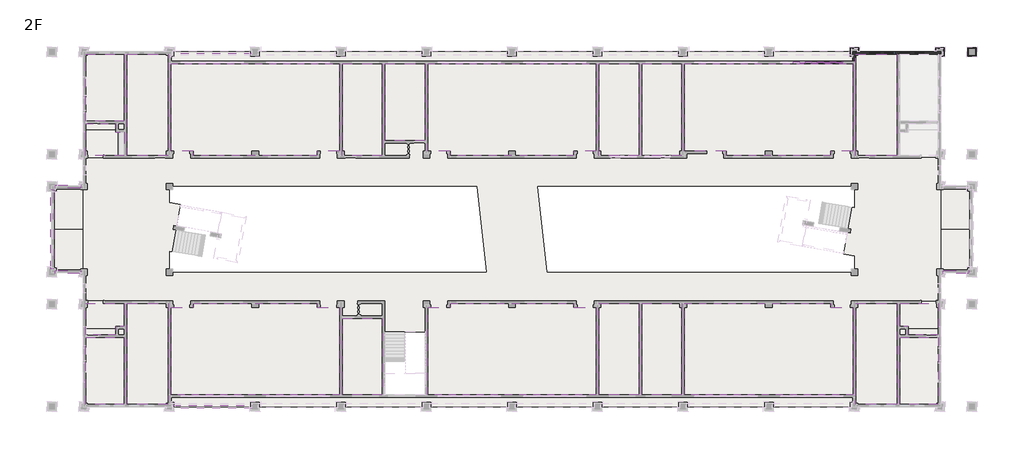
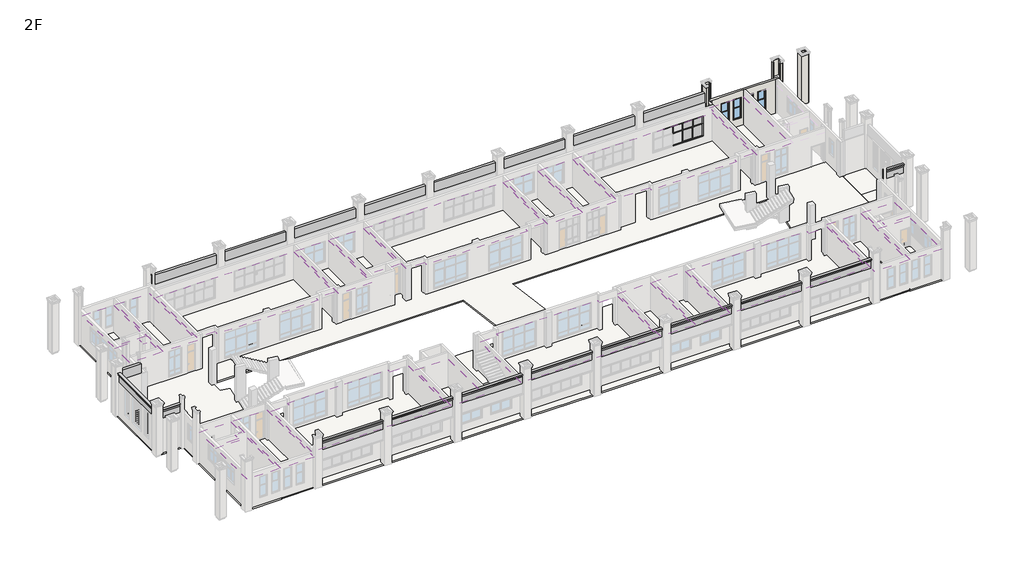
# One storey, part 9 of 16: 23 coverings, 16 members, 14 walls, 8 slabs, 6 proxies, 4 windows, 3 plates.
"""IFC4 building model written with IfcOpenShell, lengths in millimetres."""

from ifc_helpers import new_model, si_unit, frame, origin, place, context, project, spatial, polyline, outline, extrude, faceted_brep, transform, mapped, element, save
from components import member_7564be38, member_1f4d75dd, member_163d5e45, member_0b7842ad, member_2b011958, member_ffafc35e, member_9c26cac3, member_a374fdad, member_6c42befd, plate_75e73fbb, plate_1cc4df2b, plate_4fa5932a, lc1_lc1_4d7fae2d

model = new_model("IFC4")

# Units and contexts
model_context = context("Model", 3, world=origin())
ifc_project = project(units=[si_unit("LENGTHUNIT", "METRE", prefix="MILLI")], contexts=[model_context])

# Site, building, storey
site = spatial("IfcSite", under=ifc_project)
building = spatial("IfcBuilding", under=site)
storey = spatial("IfcBuildingStorey", under=building, Name="2F", Elevation=4200.0)

# Proxies
placement = place(None, origin())
element("IfcBuildingElementProxy", 1, Name="空调板围档", ObjectType="空调板围档", at=placement, inside=storey, context=model_context, shape_type="SweptSolid", body=[
    extrude(outline(polyline([(12599.6954636, 9220.0), (12519.6954636, 9220.0), (12519.6954636, 9420.0), (12469.6954636, 9420.0), (12469.6954636, 9520.0), (12749.6954636, 9520.0), (12749.6954636, 8380.4499984), (12599.6954636, 8380.0), (12599.6954636, 9220.0)])), frame((83300.0, 0.0, 0.0), z_axis=(1.0, 0.0, 0.0), x_axis=(0.0, 1.0, 0.0)), (0.0, 0.0, 1.0), 2400.0),
])
element("IfcBuildingElementProxy", 2, Name="空调板围档", ObjectType="空调板围档", at=placement, inside=storey, context=model_context, shape_type="SweptSolid", body=[
    extrude(outline(polyline([(20679.7242304, 9220.0), (20599.7242304, 9220.0), (20599.7242304, 8380.0), (20449.7242304, 8380.4499984), (20449.7242304, 9520.0), (20729.7242304, 9520.0), (20729.7242304, 9420.0), (20679.7242304, 9420.0), (20679.7242304, 9220.0)])), frame((300.0, 0.0, 0.0), z_axis=(1.0, 0.0, 0.0), x_axis=(0.0, 1.0, 0.0)), (0.0, 0.0, 1.0), 2400.0),
])
element("IfcBuildingElementProxy", 3, Name="空调板围档", ObjectType="空调板围档", at=placement, inside=storey, context=model_context, shape_type="Brep", body=[
    faceted_brep([(-1.2e-06, 20300.0, 9220.0), (-80.0000012, 20300.0, 9220.0), (-80.0000012, 20300.0, 9420.0), (-130.0000012, 20300.0, 9420.0), (-130.0000012, 20300.0, 9520.0), (149.9999988, 20300.0, 9520.0), (149.9999988, 20300.0, 8380.8991695), (-1.2e-06, 20300.0, 8380.8991695), (-80.0000012, 12900.0, 9220.0), (-1.2e-06, 12900.0, 9220.0), (-1.2e-06, 12900.0, 8380.9009104), (149.9999988, 12900.0, 8380.9009104), (149.9999988, 12900.0, 9520.0), (-130.0000012, 12900.0, 9520.0), (-130.0000012, 12900.0, 9420.0), (-80.0000012, 12900.0, 9420.0), (149.9999988, 16599.709847, 8392.0), (-1.2e-06, 16599.709847, 8392.0)], [[[0, 1, 2, 3, 4, 5, 6, 7]], [[8, 9, 10, 11, 12, 13, 14, 15]], [[1, 0, 9, 8]], [[2, 1, 8, 15]], [[3, 2, 15, 14]], [[4, 3, 14, 13]], [[5, 4, 13, 12]], [[5, 12, 11, 16, 6]], [[9, 0, 7, 17, 10]], [[17, 16, 11, 10]], [[16, 17, 7, 6]]]),
])
element("IfcBuildingElementProxy", 4, Name="空调板围档", ObjectType="空调板围档", at=placement, inside=storey, context=model_context, shape_type="SweptSolid", body=[
    extrude(outline(polyline([(12599.6954636, 9220.0), (12519.6954636, 9220.0), (12519.6954636, 9420.0), (12469.6954636, 9420.0), (12469.6954636, 9520.0), (12749.6954636, 9520.0), (12749.6954636, 8380.4499984), (12599.6954636, 8380.0), (12599.6954636, 9220.0)])), frame((300.0, 0.0, 0.0), z_axis=(1.0, 0.0, 0.0), x_axis=(0.0, 1.0, 0.0)), (0.0, 0.0, 1.0), 2400.0),
])
element("IfcBuildingElementProxy", 5, Name="空调板围档", ObjectType="空调板围档", at=placement, inside=storey, context=model_context, shape_type="SweptSolid", body=[
    extrude(outline(polyline([(33280.0, 9220.0), (33200.0, 9220.0), (33200.0, 8380.0), (33050.0, 8380.0), (33050.0, 9520.0), (33330.0, 9520.0), (33330.0, 9420.0), (33280.0, 9420.0), (33280.0, 9220.0)])), frame((11300.0, 0.0, 0.0), z_axis=(1.0, 0.0, 0.0), x_axis=(0.0, 1.0, 0.0)), (0.0, 0.0, 1.0), 7400.0),
    extrude(outline(polyline([(33280.0, 9220.0), (33200.0, 9220.0), (33200.0, 8380.0), (33050.0, 8380.0), (33050.0, 9520.0), (33330.0, 9520.0), (33330.0, 9420.0), (33280.0, 9420.0), (33280.0, 9220.0)])), frame((19300.0, 0.0, 0.0), z_axis=(1.0, 0.0, 0.0), x_axis=(0.0, 1.0, 0.0)), (0.0, 0.0, 1.0), 7400.0),
    extrude(outline(polyline([(33280.0, 9220.0), (33200.0, 9220.0), (33200.0, 8380.0), (33050.0, 8380.0), (33050.0, 9520.0), (33330.0, 9520.0), (33330.0, 9420.0), (33280.0, 9420.0), (33280.0, 9220.0)])), frame((27300.0, 0.0, 0.0), z_axis=(1.0, 0.0, 0.0), x_axis=(0.0, 1.0, 0.0)), (0.0, 0.0, 1.0), 7400.0),
    extrude(outline(polyline([(33280.0, 9220.0), (33200.0, 9220.0), (33200.0, 8380.0), (33050.0, 8380.0), (33050.0, 9520.0), (33330.0, 9520.0), (33330.0, 9420.0), (33280.0, 9420.0), (33280.0, 9220.0)])), frame((35300.0, 0.0, 0.0), z_axis=(1.0, 0.0, 0.0), x_axis=(0.0, 1.0, 0.0)), (0.0, 0.0, 1.0), 7400.0),
    extrude(outline(polyline([(33280.0, 9220.0), (33200.0, 9220.0), (33200.0, 8380.0), (33050.0, 8380.0), (33050.0, 9520.0), (33330.0, 9520.0), (33330.0, 9420.0), (33280.0, 9420.0), (33280.0, 9220.0)])), frame((43300.0, 0.0, 0.0), z_axis=(1.0, 0.0, 0.0), x_axis=(0.0, 1.0, 0.0)), (0.0, 0.0, 1.0), 7400.0),
    extrude(outline(polyline([(33280.0, 9220.0), (33200.0, 9220.0), (33200.0, 8380.0), (33050.0, 8380.0), (33050.0, 9520.0), (33330.0, 9520.0), (33330.0, 9420.0), (33280.0, 9420.0), (33280.0, 9220.0)])), frame((51300.0, 0.0, 0.0), z_axis=(1.0, 0.0, 0.0), x_axis=(0.0, 1.0, 0.0)), (0.0, 0.0, 1.0), 7400.0),
    extrude(outline(polyline([(33280.0, 9220.0), (33200.0, 9220.0), (33200.0, 8380.0), (33050.0, 8380.0), (33050.0, 9520.0), (33330.0, 9520.0), (33330.0, 9420.0), (33280.0, 9420.0), (33280.0, 9220.0)])), frame((59300.0, 0.0, 0.0), z_axis=(1.0, 0.0, 0.0), x_axis=(0.0, 1.0, 0.0)), (0.0, 0.0, 1.0), 7400.0),
    extrude(outline(polyline([(33280.0, 9220.0), (33200.0, 9220.0), (33200.0, 8380.0), (33050.0, 8380.0), (33050.0, 9520.0), (33330.0, 9520.0), (33330.0, 9420.0), (33280.0, 9420.0), (33280.0, 9220.0)])), frame((67300.0, 0.0, 0.0), z_axis=(1.0, 0.0, 0.0), x_axis=(0.0, 1.0, 0.0)), (0.0, 0.0, 1.0), 7400.0),
])
element("IfcBuildingElementProxy", 6, Name="空调板围档", ObjectType="空调板围档", at=placement, inside=storey, context=model_context, shape_type="SweptSolid", body=[
    extrude(outline(polyline([(0.0, 9220.0), (-80.0, 9220.0), (-80.0, 9420.0), (-130.0, 9420.0), (-130.0, 9520.0), (150.0, 9520.0), (150.0, 8380.0), (0.0, 8380.0), (0.0, 9220.0)])), frame((11300.0, 0.0, 0.0), z_axis=(1.0, 0.0, 0.0), x_axis=(0.0, 1.0, 0.0)), (0.0, 0.0, 1.0), 7400.0),
    extrude(outline(polyline([(0.0, 9220.0), (-80.0, 9220.0), (-80.0, 9420.0), (-130.0, 9420.0), (-130.0, 9520.0), (150.0, 9520.0), (150.0, 8380.0), (0.0, 8380.0), (0.0, 9220.0)])), frame((19300.0, 0.0, 0.0), z_axis=(1.0, 0.0, 0.0), x_axis=(0.0, 1.0, 0.0)), (0.0, 0.0, 1.0), 7400.0),
    extrude(outline(polyline([(0.0, 9220.0), (-80.0, 9220.0), (-80.0, 9420.0), (-130.0, 9420.0), (-130.0, 9520.0), (150.0, 9520.0), (150.0, 8380.0), (0.0, 8380.0), (0.0, 9220.0)])), frame((27300.0, 0.0, 0.0), z_axis=(1.0, 0.0, 0.0), x_axis=(0.0, 1.0, 0.0)), (0.0, 0.0, 1.0), 7400.0),
    extrude(outline(polyline([(0.0, 9220.0), (-80.0, 9220.0), (-80.0, 9420.0), (-130.0, 9420.0), (-130.0, 9520.0), (150.0, 9520.0), (150.0, 8380.0), (0.0, 8380.0), (0.0, 9220.0)])), frame((35300.0, 0.0, 0.0), z_axis=(1.0, 0.0, 0.0), x_axis=(0.0, 1.0, 0.0)), (0.0, 0.0, 1.0), 7400.0),
    extrude(outline(polyline([(0.0, 9220.0), (-80.0, 9220.0), (-80.0, 9420.0), (-130.0, 9420.0), (-130.0, 9520.0), (150.0, 9520.0), (150.0, 8380.0), (0.0, 8380.0), (0.0, 9220.0)])), frame((43300.0, 0.0, 0.0), z_axis=(1.0, 0.0, 0.0), x_axis=(0.0, 1.0, 0.0)), (0.0, 0.0, 1.0), 7400.0),
    extrude(outline(polyline([(0.0, 9220.0), (-80.0, 9220.0), (-80.0, 9420.0), (-130.0, 9420.0), (-130.0, 9520.0), (150.0, 9520.0), (150.0, 8380.0), (0.0, 8380.0), (0.0, 9220.0)])), frame((51300.0, 0.0, 0.0), z_axis=(1.0, 0.0, 0.0), x_axis=(0.0, 1.0, 0.0)), (0.0, 0.0, 1.0), 7400.0),
    extrude(outline(polyline([(0.0, 9220.0), (-80.0, 9220.0), (-80.0, 9420.0), (-130.0, 9420.0), (-130.0, 9520.0), (150.0, 9520.0), (150.0, 8380.0), (0.0, 8380.0), (0.0, 9220.0)])), frame((59300.0, 0.0, 0.0), z_axis=(1.0, 0.0, 0.0), x_axis=(0.0, 1.0, 0.0)), (0.0, 0.0, 1.0), 7400.0),
    extrude(outline(polyline([(0.0, 9220.0), (-80.0, 9220.0), (-80.0, 9420.0), (-130.0, 9420.0), (-130.0, 9520.0), (150.0, 9520.0), (150.0, 8380.0), (0.0, 8380.0), (0.0, 9220.0)])), frame((67300.0, 0.0, 0.0), z_axis=(1.0, 0.0, 0.0), x_axis=(0.0, 1.0, 0.0)), (0.0, 0.0, 1.0), 7400.0),
])

# Coverings
element("IfcCovering", 7, ObjectType="教学楼 - 悬吊式顶棚 - 36mm", at=placement, inside=storey, context=model_context, shape_type="SweptSolid", body=[
    extrude(outline(polyline([(3167.0000002, 26716.2230983), (3167.0000002, 32982.6954639), (6783.0000003, 32982.6954639), (6783.0000003, 26716.2230983), (3167.0000002, 26716.2230983)])), frame((0.0, 0.0, 7600.0), z_axis=(0.0, 0.0, 1.0), x_axis=(1.0, 0.0, 0.0)), (0.0, 0.0, 1.0), 52.0),
])
element("IfcCovering", 8, ObjectType="教学楼 - 悬吊式顶棚 - 36mm", at=placement, inside=storey, context=model_context, shape_type="SweptSolid", body=[
    extrude(outline(polyline([(6783.0000003, 23516.723093), (3167.0000002, 23516.723093), (3167.0000002, 26482.2230983), (5983.0000019, 26482.2230983), (5983.0000019, 25682.2231012), (6783.0000003, 25682.2231012), (6783.0000003, 23516.723093)])), frame((0.0, 0.0, 7600.0), z_axis=(0.0, 0.0, 1.0), x_axis=(1.0, 0.0, 0.0)), (0.0, 0.0, 1.0), 52.0),
])
element("IfcCovering", 9, ObjectType="教学楼 - 悬吊式顶棚 - 36mm", at=placement, inside=storey, context=model_context, shape_type="SweptSolid", body=[
    extrude(outline(polyline([(7017.0000003, 23516.723093), (7017.0000003, 32982.6954639), (10883.0, 32982.6954639), (10883.0, 32200.0), (10883.0, 23516.723093), (7017.0000003, 23516.723093)])), frame((0.0, 0.0, 7600.0), z_axis=(0.0, 0.0, 1.0), x_axis=(1.0, 0.0, 0.0)), (0.0, 0.0, 1.0), 52.0),
])
element("IfcCovering", 10, ObjectType="教学楼 - 悬吊式顶棚 - 36mm", at=placement, inside=storey, context=model_context, shape_type="SweptSolid", body=[
    extrude(outline(polyline([(11117.0, 23916.7231012), (11117.0, 32075.0), (26883.0, 32075.0), (26883.0, 23916.7231007), (24782.9999964, 23916.7231007), (24782.9999964, 23516.6954641), (13216.9999996, 23516.6954641), (13216.9999996, 23916.7231012), (11117.0, 23916.7231012)])), frame((0.0, 0.0, 7600.0), z_axis=(0.0, 0.0, 1.0), x_axis=(1.0, 0.0, 0.0)), (0.0, 0.0, 1.0), 52.0),
])
element("IfcCovering", 11, ObjectType="教学楼 - 悬吊式顶棚 - 36mm", at=placement, inside=storey, context=model_context, shape_type="SweptSolid", body=[
    extrude(outline(polyline([(31117.0000029, 24916.6954638), (31117.0000029, 32075.0), (34883.0, 32075.0), (34883.0, 24916.6954638), (31117.0000029, 24916.6954638)])), frame((0.0, 0.0, 7600.0), z_axis=(0.0, 0.0, 1.0), x_axis=(1.0, 0.0, 0.0)), (0.0, 0.0, 1.0), 52.0),
])
element("IfcCovering", 12, ObjectType="教学楼 - 悬吊式顶棚 - 36mm", at=placement, inside=storey, context=model_context, shape_type="SweptSolid", body=[
    extrude(outline(polyline([(27117.0, 23516.6954638), (27117.0, 32075.0), (30883.0000029, 32075.0), (30883.0000029, 23516.6954638), (27117.0, 23516.6954638)])), frame((0.0, 0.0, 7600.0), z_axis=(0.0, 0.0, 1.0), x_axis=(1.0, 0.0, 0.0)), (0.0, 0.0, 1.0), 52.0),
])
element("IfcCovering", 13, ObjectType="教学楼 - 悬吊式顶棚 - 36mm", at=placement, inside=storey, context=model_context, shape_type="SweptSolid", body=[
    extrude(outline(polyline([(35117.0, 23916.7231012), (35117.0, 32075.0), (50883.0, 32075.0), (50883.0, 23916.7231007), (48783.0000007, 23916.7231007), (48783.0000007, 23516.695464), (37216.999999, 23516.695464), (37216.999999, 23916.7231012), (35117.0, 23916.7231012)])), frame((0.0, 0.0, 7600.0), z_axis=(0.0, 0.0, 1.0), x_axis=(1.0, 0.0, 0.0)), (0.0, 0.0, 1.0), 52.0),
])
element("IfcCovering", 14, ObjectType="教学楼 - 悬吊式顶棚 - 36mm", at=placement, inside=storey, context=model_context, shape_type="SweptSolid", body=[
    extrude(outline(polyline([(51117.0, 23516.6954639), (51117.0, 32075.0), (54883.0000001, 32075.0), (54883.0000001, 23516.6954639), (51117.0, 23516.6954639)])), frame((0.0, 0.0, 7600.0), z_axis=(0.0, 0.0, 1.0), x_axis=(1.0, 0.0, 0.0)), (0.0, 0.0, 1.0), 52.0),
])
element("IfcCovering", 15, ObjectType="教学楼 - 悬吊式顶棚 - 36mm", at=placement, inside=storey, context=model_context, shape_type="SweptSolid", body=[
    extrude(outline(polyline([(55117.0000001, 23516.6954639), (55117.0000001, 32075.0), (58883.0, 32075.0), (58883.0, 23516.6954639), (55117.0000001, 23516.6954639)])), frame((0.0, 0.0, 7600.0), z_axis=(0.0, 0.0, 1.0), x_axis=(1.0, 0.0, 0.0)), (0.0, 0.0, 1.0), 52.0),
])
element("IfcCovering", 16, ObjectType="教学楼 - 悬吊式顶棚 - 36mm", at=placement, inside=storey, context=model_context, shape_type="SweptSolid", body=[
    extrude(outline(polyline([(59117.0, 23916.7231012), (59117.0, 32075.0), (74883.0, 32075.0), (74883.0, 23916.7231011), (72783.0, 23916.7231011), (72783.0, 23516.6954638), (63017.0000002, 23516.6954638), (63017.0000002, 23916.7231012), (59117.0, 23916.7231012)])), frame((0.0, 0.0, 7600.0), z_axis=(0.0, 0.0, 1.0), x_axis=(1.0, 0.0, 0.0)), (0.0, 0.0, 1.0), 52.0),
])
element("IfcCovering", 17, ObjectType="教学楼 - 悬吊式顶棚 - 36mm", at=placement, inside=storey, context=model_context, shape_type="SweptSolid", body=[
    extrude(outline(polyline([(75117.0, 23516.2230996), (75117.0, 32200.0), (75117.0, 32982.6954642), (78983.0000003, 32982.6954642), (78983.0000003, 23516.2230996), (75117.0, 23516.2230996)])), frame((0.0, 0.0, 7600.0), z_axis=(0.0, 0.0, 1.0), x_axis=(1.0, 0.0, 0.0)), (0.0, 0.0, 1.0), 52.0),
])
element("IfcCovering", 18, ObjectType="教学楼 - 悬吊式顶棚 - 36mm", at=placement, inside=storey, context=model_context, shape_type="SweptSolid", body=[
    extrude(outline(polyline([(82832.9999995, 6483.7769004), (82832.9999995, 217.3045358), (79217.0000003, 217.3045358), (79217.0000003, 6483.7769004), (82832.9999995, 6483.7769004)])), frame((0.0, 0.0, 7600.0), z_axis=(0.0, 0.0, 1.0), x_axis=(1.0, 0.0, 0.0)), (0.0, 0.0, 1.0), 52.0),
])
element("IfcCovering", 19, ObjectType="教学楼 - 悬吊式顶棚 - 36mm", at=placement, inside=storey, context=model_context, shape_type="SweptSolid", body=[
    extrude(outline(polyline([(78983.0000003, 217.3045358), (75117.0, 217.3045358), (75117.0, 1000.0), (75117.0, 9683.7769004), (78983.0000003, 9683.7769004), (78983.0000003, 217.3045358)])), frame((0.0, 0.0, 7600.0), z_axis=(0.0, 0.0, 1.0), x_axis=(1.0, 0.0, 0.0)), (0.0, 0.0, 1.0), 52.0),
])
element("IfcCovering", 20, ObjectType="教学楼 - 悬吊式顶棚 - 36mm", at=placement, inside=storey, context=model_context, shape_type="SweptSolid", body=[
    extrude(outline(polyline([(82832.9999995, 9683.7769004), (82832.9999995, 6717.7769004), (80016.9999995, 6717.7769004), (80016.9999995, 7517.7769004), (79217.0000003, 7517.7769004), (79217.0000003, 9683.7769004), (82832.9999995, 9683.7769004)])), frame((0.0, 0.0, 7600.0), z_axis=(0.0, 0.0, 1.0), x_axis=(1.0, 0.0, 0.0)), (0.0, 0.0, 1.0), 52.0),
])
element("IfcCovering", 21, ObjectType="教学楼 - 悬吊式顶棚 - 36mm", at=placement, inside=storey, context=model_context, shape_type="SweptSolid", body=[
    extrude(outline(polyline([(74883.0, 9283.2768989), (74883.0, 1125.0), (59117.0, 1125.0), (59117.0, 9683.3045361), (72783.0, 9683.3045361), (72783.0, 9283.2768989), (74883.0, 9283.2768989)])), frame((0.0, 0.0, 7600.0), z_axis=(0.0, 0.0, 1.0), x_axis=(1.0, 0.0, 0.0)), (0.0, 0.0, 1.0), 52.0),
])
element("IfcCovering", 22, ObjectType="教学楼 - 悬吊式顶棚 - 36mm", at=placement, inside=storey, context=model_context, shape_type="SweptSolid", body=[
    extrude(outline(polyline([(58883.0, 9683.3045361), (58883.0, 1125.0), (55116.9999999, 1125.0), (55116.9999999, 9683.3045361), (58883.0, 9683.3045361)])), frame((0.0, 0.0, 7600.0), z_axis=(0.0, 0.0, 1.0), x_axis=(1.0, 0.0, 0.0)), (0.0, 0.0, 1.0), 52.0),
])
element("IfcCovering", 23, ObjectType="教学楼 - 悬吊式顶棚 - 36mm", at=placement, inside=storey, context=model_context, shape_type="SweptSolid", body=[
    extrude(outline(polyline([(54882.9999999, 9683.3045361), (54882.9999999, 1125.0), (51117.0, 1125.0), (51117.0, 9683.3045361), (54882.9999999, 9683.3045361)])), frame((0.0, 0.0, 7600.0), z_axis=(0.0, 0.0, 1.0), x_axis=(1.0, 0.0, 0.0)), (0.0, 0.0, 1.0), 52.0),
])
element("IfcCovering", 24, ObjectType="教学楼 - 悬吊式顶棚 - 36mm", at=placement, inside=storey, context=model_context, shape_type="SweptSolid", body=[
    extrude(outline(polyline([(50883.0, 9283.2768993), (50883.0, 1125.0), (35117.0, 1125.0), (35117.0, 9283.2768988), (37216.999999, 9283.2768988), (37216.999999, 9683.304536), (48783.0000007, 9683.304536), (48783.0000007, 9283.2768993), (50883.0, 9283.2768993)])), frame((0.0, 0.0, 7600.0), z_axis=(0.0, 0.0, 1.0), x_axis=(1.0, 0.0, 0.0)), (0.0, 0.0, 1.0), 52.0),
])
element("IfcCovering", 25, ObjectType="教学楼 - 悬吊式顶棚 - 36mm", at=placement, inside=storey, context=model_context, shape_type="SweptSolid", body=[
    extrude(outline(polyline([(30883.0000029, 8282.6678355), (30883.0000029, 1125.0), (27117.0, 1125.0), (27117.0, 8282.6678355), (30883.0000029, 8282.6678355)])), frame((0.0, 0.0, 7600.0), z_axis=(0.0, 0.0, 1.0), x_axis=(1.0, 0.0, 0.0)), (0.0, 0.0, 1.0), 52.0),
])
element("IfcCovering", 26, ObjectType="教学楼 - 悬吊式顶棚 - 36mm", at=placement, inside=storey, context=model_context, shape_type="SweptSolid", body=[
    extrude(outline(polyline([(26883.0, 9283.2768993), (26883.0, 1125.0), (11117.0, 1125.0), (11117.0, 9283.2768988), (13216.9999996, 9283.2768988), (13216.9999996, 9683.3045359), (24782.9999964, 9683.3045359), (24782.9999964, 9283.2768993), (26883.0, 9283.2768993)])), frame((0.0, 0.0, 7600.0), z_axis=(0.0, 0.0, 1.0), x_axis=(1.0, 0.0, 0.0)), (0.0, 0.0, 1.0), 52.0),
])
element("IfcCovering", 27, ObjectType="教学楼 - 悬吊式顶棚 - 36mm", at=placement, inside=storey, context=model_context, shape_type="SweptSolid", body=[
    extrude(outline(polyline([(10883.0, 1000.0), (10883.0, 217.3045361), (7017.0000003, 217.3045361), (7017.0000003, 9683.276907), (10883.0, 9683.276907), (10883.0, 1000.0)])), frame((0.0, 0.0, 7600.0), z_axis=(0.0, 0.0, 1.0), x_axis=(1.0, 0.0, 0.0)), (0.0, 0.0, 1.0), 52.0),
])
element("IfcCovering", 28, ObjectType="教学楼 - 悬吊式顶棚 - 36mm", at=placement, inside=storey, context=model_context, shape_type="SweptSolid", body=[
    extrude(outline(polyline([(6783.0000003, 217.3045361), (3167.0000002, 217.3045361), (3167.0000002, 6483.7769017), (6783.0000003, 6483.7769017), (6783.0000003, 217.3045361)])), frame((0.0, 0.0, 7600.0), z_axis=(0.0, 0.0, 1.0), x_axis=(1.0, 0.0, 0.0)), (0.0, 0.0, 1.0), 52.0),
])
element("IfcCovering", 29, ObjectType="教学楼 - 悬吊式顶棚 - 36mm", at=placement, inside=storey, context=model_context, shape_type="SweptSolid", body=[
    extrude(outline(polyline([(3167.0000002, 6717.7769017), (3167.0000002, 9683.276907), (6783.0000003, 9683.276907), (6783.0000003, 7517.7768988), (5983.0000019, 7517.7768988), (5983.0000019, 6717.7769017), (3167.0000002, 6717.7769017)])), frame((0.0, 0.0, 7600.0), z_axis=(0.0, 0.0, 1.0), x_axis=(1.0, 0.0, 0.0)), (0.0, 0.0, 1.0), 52.0),
])

# Members
member_shape = member_7564be38(model_context)
element("IfcMember", 30, ObjectType="矩形竖梃 : 教学楼 – 矩形竖梃 – 100x150mm", at=placement, inside=storey, context=model_context, shape_type="MappedRepresentation", body=[
    mapped(member_shape, transform((73899.9999995, 32210.0, 7600.0), x_axis=(0.0, 0.0, 1.0), y_axis=(0.0, -1.0, 0.0), z_axis=(1.0, 0.0, 0.0))),
])
member_2_shape = member_1f4d75dd(model_context)
element("IfcMember", 31, ObjectType="矩形竖梃 : 教学楼 – 矩形竖梃 – 50x150mm", at=placement, inside=storey, context=model_context, shape_type="MappedRepresentation", body=[
    mapped(member_2_shape, transform((71549.9999995, 32210.0, 5200.0), x_axis=(1.0, 0.0, 0.0), y_axis=(0.0, -1.0, 0.0), z_axis=(0.0, 0.0, -1.0))),
])
member_3_shape = member_163d5e45(model_context)
element("IfcMember", 32, ObjectType="矩形竖梃 : 教学楼 – 矩形竖梃 – 50x150mm", at=placement, inside=storey, context=model_context, shape_type="MappedRepresentation", body=[
    mapped(member_3_shape, transform((72699.9999995, 32210.0, 6650.0), x_axis=(0.0, 0.0, 1.0), y_axis=(0.0, -1.0, 0.0), z_axis=(1.0, 0.0, 0.0))),
])
member_4_shape = member_0b7842ad(model_context)
element("IfcMember", 33, ObjectType="矩形竖梃 : 教学楼 – 矩形竖梃 – 50x150mm", at=placement, inside=storey, context=model_context, shape_type="MappedRepresentation", body=[
    mapped(member_4_shape, transform((71549.9999995, 32210.0, 6650.0), x_axis=(0.0, 0.0, 1.0), y_axis=(0.0, -1.0, 0.0), z_axis=(1.0, 0.0, 0.0))),
])
element("IfcMember", 34, ObjectType="矩形竖梃 : 教学楼 – 矩形竖梃 – 50x150mm", at=placement, inside=storey, context=model_context, shape_type="MappedRepresentation", body=[
    mapped(member_4_shape, transform((73799.9999995, 32210.0, 6650.0), x_axis=(0.0, 0.0, 1.0), y_axis=(0.0, -1.0, 0.0), z_axis=(1.0, 0.0, 0.0))),
])
member_5_shape = member_2b011958(model_context)
element("IfcMember", 35, ObjectType="矩形竖梃 : 教学楼 – 矩形竖梃 – 100x150mm", at=placement, inside=storey, context=model_context, shape_type="MappedRepresentation", body=[
    mapped(member_5_shape, transform((70449.9999995, 32210.0, 5100.0), x_axis=(0.0, 0.0, -1.0), y_axis=(0.0, -1.0, 0.0), z_axis=(-1.0, 0.0, 0.0))),
])
member_6_shape = member_ffafc35e(model_context)
element("IfcMember", 36, ObjectType="矩形竖梃 : 教学楼 – 矩形竖梃 – 100x150mm", at=placement, inside=storey, context=model_context, shape_type="MappedRepresentation", body=[
    mapped(member_6_shape, transform((71549.9999995, 32210.0, 5100.0), x_axis=(0.0, 0.0, -1.0), y_axis=(0.0, -1.0, 0.0), z_axis=(-1.0, 0.0, 0.0))),
])
element("IfcMember", 37, ObjectType="矩形竖梃 : 教学楼 – 矩形竖梃 – 100x150mm", at=placement, inside=storey, context=model_context, shape_type="MappedRepresentation", body=[
    mapped(member_shape, transform((72699.9999995, 32210.0, 5100.0), x_axis=(0.0, 0.0, -1.0), y_axis=(0.0, -1.0, 0.0), z_axis=(-1.0, 0.0, 0.0))),
])
element("IfcMember", 38, ObjectType="矩形竖梃 : 教学楼 – 矩形竖梃 – 100x150mm", at=placement, inside=storey, context=model_context, shape_type="MappedRepresentation", body=[
    mapped(member_6_shape, transform((70449.9999995, 32210.0, 7600.0), x_axis=(0.0, 0.0, 1.0), y_axis=(0.0, -1.0, 0.0), z_axis=(1.0, 0.0, 0.0))),
])
element("IfcMember", 39, ObjectType="矩形竖梃 : 教学楼 – 矩形竖梃 – 100x150mm", at=placement, inside=storey, context=model_context, shape_type="MappedRepresentation", body=[
    mapped(member_6_shape, transform((72699.9999995, 32210.0, 7600.0), x_axis=(0.0, 0.0, 1.0), y_axis=(0.0, -1.0, 0.0), z_axis=(1.0, 0.0, 0.0))),
])
element("IfcMember", 40, ObjectType="矩形竖梃 : 教学楼 – 矩形竖梃 – 100x150mm", at=placement, inside=storey, context=model_context, shape_type="MappedRepresentation", body=[
    mapped(member_5_shape, transform((71549.9999995, 32210.0, 7600.0), x_axis=(0.0, 0.0, 1.0), y_axis=(0.0, -1.0, 0.0), z_axis=(1.0, 0.0, 0.0))),
])
member_7_shape = member_9c26cac3(model_context)
element("IfcMember", 41, ObjectType="矩形竖梃 : 教学楼 – 矩形竖梃 – 50x150mm", at=placement, inside=storey, context=model_context, shape_type="MappedRepresentation", body=[
    mapped(member_7_shape, transform((70449.9999995, 32210.0, 6675.0), x_axis=(1.0, 0.0, 0.0), y_axis=(0.0, -1.0, 0.0), z_axis=(0.0, 0.0, -1.0))),
])
element("IfcMember", 42, ObjectType="矩形竖梃 : 教学楼 – 矩形竖梃 – 50x150mm", at=placement, inside=storey, context=model_context, shape_type="MappedRepresentation", body=[
    mapped(member_7_shape, transform((71549.9999995, 32210.0, 6675.0), x_axis=(1.0, 0.0, 0.0), y_axis=(0.0, -1.0, 0.0), z_axis=(0.0, 0.0, -1.0))),
])
element("IfcMember", 43, ObjectType="矩形竖梃 : 教学楼 – 矩形竖梃 – 50x150mm", at=placement, inside=storey, context=model_context, shape_type="MappedRepresentation", body=[
    mapped(member_7_shape, transform((72699.9999995, 32210.0, 6675.0), x_axis=(1.0, 0.0, 0.0), y_axis=(0.0, -1.0, 0.0), z_axis=(0.0, 0.0, -1.0))),
])
member_8_shape = member_a374fdad(model_context)
element("IfcMember", 44, ObjectType="矩形竖梃 : 教学楼 – 矩形竖梃 – 100x150mm", at=placement, inside=storey, context=model_context, shape_type="MappedRepresentation", body=[
    mapped(member_8_shape, transform((73899.9999995, 32210.0, 5200.0), x_axis=(1.0, 0.0, 0.0), y_axis=(0.0, -1.0, 0.0), z_axis=(0.0, 0.0, -1.0))),
])
member_9_shape = member_6c42befd(model_context)
element("IfcMember", 45, ObjectType="矩形竖梃 : 教学楼 – 矩形竖梃 – 100x150mm", at=placement, inside=storey, context=model_context, shape_type="MappedRepresentation", body=[
    mapped(member_9_shape, transform((73899.9999995, 32210.0, 6650.0), x_axis=(1.0, 0.0, 0.0), y_axis=(0.0, -1.0, 0.0), z_axis=(0.0, 0.0, -1.0))),
])

# Plates
plate_shape = plate_75e73fbb(model_context)
element("IfcPlate", 46, ObjectType="教学楼 - 窗嵌板：双扇推拉窗 : 教学楼 - 窗嵌板：双扇推拉窗", at=placement, inside=storey, context=model_context, shape_type="MappedRepresentation", body=[
    mapped(plate_shape, transform((72687.4999995, 32210.0, 5200.0), x_axis=(1.0, 0.0, 0.0), y_axis=(0.0, 1.0, 0.0), z_axis=(0.0, 0.0, 1.0))),
])
plate_2_shape = plate_1cc4df2b(model_context)
element("IfcPlate", 47, ObjectType="系统嵌板 : 玻璃", at=placement, inside=storey, context=model_context, shape_type="MappedRepresentation", body=[
    mapped(plate_2_shape, transform((73262.4999995, 32210.0, 6675.0), x_axis=(1.0, 0.0, 0.0), y_axis=(0.0, 1.0, 0.0), z_axis=(0.0, 0.0, 1.0))),
])
plate_3_shape = plate_4fa5932a(model_context)
element("IfcPlate", 48, ObjectType="系统嵌板 : 玻璃", at=placement, inside=storey, context=model_context, shape_type="MappedRepresentation", body=[
    mapped(plate_3_shape, transform((72124.9999995, 32210.0, 6675.0), x_axis=(1.0, 0.0, 0.0), y_axis=(0.0, 1.0, 0.0), z_axis=(0.0, 0.0, 1.0))),
])

# Slabs
element("IfcSlab", 49, ObjectType="教学楼 – 防滑楼面 – 120mm", at=placement, inside=storey, context=model_context, shape_type="Brep", body=[
    faceted_brep([(2950.0000002, 23299.723093, 4050.0), (7000.0000003, 23299.723093, 4050.0), (7000.0000003, 33199.6954639, 4050.0), (11100.0, 33199.6954639, 4050.0), (11100.0, 32292.0, 4050.0), (74900.0, 32292.0, 4050.0), (74900.0, 33199.6954642, 4050.0), (79000.0000003, 33199.6954642, 4050.0), (79000.0000003, 23299.2230996, 4050.0), (83049.9999995, 23299.2230996, 4050.0), (83049.9999995, 9900.7769004, 4050.0), (79000.0000003, 9900.7769004, 4050.0), (79000.0000003, 9683.7769004, 4050.0), (79000.0000003, 217.3045358, 4050.0), (79000.0000003, 0.3045358, 4050.0), (75117.0, 0.3045358, 4050.0), (74900.0, 0.3045358, 4050.0), (74900.0, 908.0, 4050.0), (34900.0, 908.0, 4050.0), (34900.0, 7000.0, 4050.0), (31100.0000029, 7000.0, 4050.0), (31100.0000029, 908.0, 4050.0), (11100.0, 908.0, 4050.0), (11100.0, 0.3045361, 4050.0), (7000.0000003, 0.3045361, 4050.0), (7000.0000003, 217.3045361, 4050.0), (7000.0000003, 9683.276907, 4050.0), (7000.0000003, 9900.276907, 4050.0), (2950.0000002, 9900.276907, 4050.0), (11000.0, 20593.5445604, 4050.0), (11000.0, 19117.4798469, 4050.0), (12050.9820413, 18932.1633568, 4050.0), (11268.9704025, 14497.1549694, 4050.0), (11000.0, 14544.5817084, 4050.0), (11000.0, 12599.6954639, 4050.0), (40600.3079227, 12599.6954639, 4050.0), (39699.7686428, 20593.5445604, 4050.0), (45400.4076736, 20593.3433043, 4050.0), (46300.9242811, 12599.6954639, 4050.0), (75000.0, 12599.6954639, 4050.0), (75000.0, 14085.2020773, 4050.0), (73949.6432514, 14270.3941519, 4050.0), (74731.0021086, 18702.0392568, 4050.0), (75000.0, 18654.6112971, 4050.0), (75000.0, 20593.3433043, 4050.0), (7000.0000003, 23299.723093, 4200.0), (2950.0000002, 23299.723093, 4200.0), (2950.0000002, 9900.276907, 4200.0), (7000.0000003, 9900.276907, 4200.0), (7000.0000003, 9683.276907, 4200.0), (7000.0000003, 217.3045361, 4200.0), (7000.0000003, 0.3045361, 4200.0), (11100.0, 0.3045361, 4200.0), (11100.0, 908.0, 4200.0), (31100.0000029, 908.0, 4200.0), (31100.0000029, 7000.0, 4200.0), (34900.0, 7000.0, 4200.0), (34900.0, 908.0, 4200.0), (74900.0, 908.0, 4200.0), (74900.0, 0.3045358, 4200.0), (75117.0, 0.3045358, 4200.0), (79000.0000003, 0.3045358, 4200.0), (79000.0000003, 217.3045358, 4200.0), (79000.0000003, 9683.7769004, 4200.0), (79000.0000003, 9900.7769004, 4200.0), (83049.9999995, 9900.7769004, 4200.0), (83049.9999995, 23299.2230996, 4200.0), (79000.0000003, 23299.2230996, 4200.0), (79000.0000003, 33199.6954642, 4200.0), (74900.0, 33199.6954642, 4200.0), (74900.0, 32292.0, 4200.0), (11100.0, 32292.0, 4200.0), (11100.0, 33199.6954639, 4200.0), (7000.0000003, 33199.6954639, 4200.0), (11000.0, 19117.4798469, 4200.0), (11000.0, 20593.5445604, 4200.0), (39699.7686428, 20593.5445604, 4200.0), (40600.3079227, 12599.6954639, 4200.0), (11000.0, 12599.6954639, 4200.0), (11000.0, 14544.5817084, 4200.0), (11268.9704025, 14497.1549694, 4200.0), (12050.9820413, 18932.1633568, 4200.0), (46300.9242811, 12599.6954639, 4200.0), (45400.4076736, 20593.3433043, 4200.0), (75000.0, 20593.3433043, 4200.0), (75000.0, 18654.6112971, 4200.0), (74731.0021086, 18702.0392568, 4200.0), (73949.6432514, 14270.3941519, 4200.0), (75000.0, 14085.2020773, 4200.0), (75000.0, 12599.6954639, 4200.0)], [[[0, 1, 2, 3, 4, 5, 6, 7, 8, 9, 10, 11, 12, 13, 14, 15, 16, 17, 18, 19, 20, 21, 22, 23, 24, 25, 26, 27, 28], [29, 30, 31, 32, 33, 34, 35, 36], [37, 38, 39, 40, 41, 42, 43, 44]], [[45, 46, 47, 48, 49, 50, 51, 52, 53, 54, 55, 56, 57, 58, 59, 60, 61, 62, 63, 64, 65, 66, 67, 68, 69, 70, 71, 72, 73], [74, 75, 76, 77, 78, 79, 80, 81], [82, 83, 84, 85, 86, 87, 88, 89]], [[1, 0, 46, 45]], [[2, 1, 45, 73]], [[5, 4, 71, 70]], [[6, 5, 70, 69]], [[9, 8, 67, 66]], [[10, 9, 66, 65]], [[11, 10, 65, 64]], [[17, 16, 59, 58]], [[17, 58, 57, 18]], [[53, 22, 21, 54]], [[23, 22, 53, 52]], [[28, 27, 48, 47]], [[0, 28, 47, 46]], [[3, 2, 73, 72]], [[4, 3, 72, 71]], [[7, 6, 69, 68]], [[8, 7, 68, 67]], [[14, 13, 12, 11, 64, 63, 62, 61]], [[16, 15, 14, 61, 60, 59]], [[24, 23, 52, 51]], [[27, 26, 25, 24, 51, 50, 49, 48]], [[19, 56, 55, 20]], [[20, 55, 54, 21]], [[56, 19, 18, 57]], [[29, 75, 74, 30]], [[30, 74, 81, 31]], [[31, 81, 80, 32]], [[32, 80, 79, 33]], [[33, 79, 78, 34]], [[34, 78, 77, 35]], [[35, 77, 76, 36]], [[75, 29, 36, 76]], [[37, 83, 82, 38]], [[38, 82, 89, 39]], [[39, 89, 88, 40]], [[40, 88, 87, 41]], [[41, 87, 86, 42]], [[42, 86, 85, 43]], [[43, 85, 84, 44]], [[83, 37, 44, 84]]]),
])
element("IfcSlab", 50, ObjectType="教学楼 – 防水楼面 – 120mm", at=placement, inside=storey, context=model_context, shape_type="SweptSolid", body=[
    extrude(outline(polyline([(33199.6954639, 3970.0), (23299.723093, 3970.0), (23299.723093, 4200.0), (25900.0, 4150.0), (33199.6954639, 4300.0), (33199.6954639, 3970.0)])), frame((2950.0000002, 0.0, 0.0), z_axis=(1.0, 0.0, 0.0), x_axis=(0.0, 1.0, 0.0)), (0.0, 0.0, 1.0), 4050.0000001),
])
element("IfcSlab", 51, ObjectType="教学楼 – 防水楼面 – 120mm", at=placement, inside=storey, context=model_context, shape_type="SweptSolid", body=[
    extrude(outline(polyline([(9900.276907, 3970.0), (0.3045361, 3970.0), (0.3045361, 4300.0), (7300.0, 4150.0), (9900.276907, 4200.0), (9900.276907, 3970.0)])), frame((2950.0000002, 0.0, 0.0), z_axis=(1.0, 0.0, 0.0), x_axis=(0.0, 1.0, 0.0)), (0.0, 0.0, 1.0), 4050.0000001),
])
element("IfcSlab", 52, ObjectType="教学楼 – 防水楼面 – 120mm", at=placement, inside=storey, context=model_context, shape_type="SweptSolid", body=[
    extrude(outline(polyline([(9900.276907, 3970.0), (0.3045361, 3970.0), (0.3045361, 4300.0), (7300.0, 4150.0), (9900.276907, 4200.0), (9900.276907, 3970.0)])), frame((78999.9999997, 0.0, 0.0), z_axis=(1.0, 0.0, 0.0), x_axis=(0.0, 1.0, 0.0)), (0.0, 0.0, 1.0), 4050.0000001),
])
element("IfcSlab", 53, ObjectType="教学楼 – 防水楼面 – 120mm", at=placement, inside=storey, context=model_context, shape_type="SweptSolid", body=[
    extrude(outline(polyline([(20599.7242304, 4000.0), (12599.6954636, 4000.0), (12599.6954636, 4180.0), (16599.709847, 4192.0), (20599.7242304, 4180.0), (20599.7242304, 4000.0)])), frame((-1.2e-06, 0.0, 0.0), z_axis=(1.0, 0.0, 0.0), x_axis=(0.0, 1.0, 0.0)), (0.0, 0.0, 1.0), 2950.0000013),
])
element("IfcSlab", 54, ObjectType="教学楼 – 防水楼面 – 120mm", at=placement, inside=storey, context=model_context, shape_type="SweptSolid", body=[
    extrude(outline(polyline([(20599.7242304, 4000.0), (12599.6954636, 4000.0), (12599.6954636, 4180.0), (16599.709847, 4192.0), (20599.7242304, 4180.0), (20599.7242304, 4000.0)])), frame((83049.9999998, 0.0, 0.0), z_axis=(1.0, 0.0, 0.0), x_axis=(0.0, 1.0, 0.0)), (0.0, 0.0, 1.0), 2950.0000013),
])
element("IfcSlab", 55, ObjectType="教学楼 – 防水楼面 – 120mm", at=placement, inside=storey, context=model_context, shape_type="SweptSolid", body=[
    extrude(outline(polyline([(11100.0, 32292.0), (11100.0, 33200.0), (11300.0, 33200.0), (18700.0, 33200.0), (19300.0, 33200.0), (26700.0, 33200.0), (27300.0, 33200.0), (34700.0, 33200.0), (35300.0, 33200.0), (42700.0, 33200.0), (43300.0, 33200.0), (50700.0, 33200.0), (51300.0, 33200.0), (58700.0, 33200.0), (59300.0, 33200.0), (66700.0, 33200.0), (67300.0, 33200.0), (74700.0, 33200.0), (74900.0, 33200.0), (74900.0, 32292.0), (11100.0, 32292.0)])), frame((0.0, 0.0, 4000.0), z_axis=(0.0, 0.0, 1.0), x_axis=(1.0, 0.0, 0.0)), (0.0, 0.0, 1.0), 180.0),
])
element("IfcSlab", 56, ObjectType="教学楼 – 防水楼面 – 120mm", at=placement, inside=storey, context=model_context, shape_type="SweptSolid", body=[
    extrude(outline(polyline([(11100.0, 0.0), (11100.0, 918.0), (31100.0000029, 918.0), (31100.0000029, 908.0), (34900.0, 908.0), (34900.0, 918.0), (74900.0, 918.0), (74900.0, 0.0), (74700.0, 0.0), (67300.0, 0.0), (66700.0, 0.0), (59300.0, 0.0), (58700.0, 0.0), (51300.0, 0.0), (50700.0, 0.0), (43300.0, 0.0), (42700.0, 0.0), (35300.0, 0.0), (34700.0, 0.0), (27300.0, 0.0), (26700.0, 0.0), (19300.0, 0.0), (18700.0, 0.0), (11300.0, 0.0), (11100.0, 0.0)])), frame((0.0, 0.0, 4000.0), z_axis=(0.0, 0.0, 1.0), x_axis=(1.0, 0.0, 0.0)), (0.0, 0.0, 1.0), 180.0),
])

# Walls
element("IfcWall", 57, ObjectType="教学楼 – 饰面砖外墙 – 200mm", at=placement, inside=storey, context=model_context, shape_type="Brep", body=[
    faceted_brep([(75117.0, 32325.0, 4200.0), (75117.0, 32900.0, 4200.0), (75117.0, 32982.6954642, 4200.0), (75117.0, 33232.6954642, 4200.0), (75117.0, 33232.6954642, 8400.0), (75117.0, 32982.6954642, 8400.0), (75117.0, 32900.0, 8400.0), (75117.0, 32325.0, 8400.0), (74867.0, 32325.0, 4200.0), (74867.0, 32325.0, 8400.0), (74867.0, 32900.0, 8400.0), (74867.0, 33232.6954642, 8400.0), (74867.0, 33232.6954642, 4200.0), (74867.0, 32900.0, 4200.0), (74867.0, 32850.0, 4200.0), (74867.0, 32800.0, 4200.0)], [[[0, 1, 2, 3, 4, 5, 6, 7]], [[8, 9, 10, 11, 12, 13, 14, 15]], [[3, 2, 1, 0, 8, 15, 14, 13, 12]], [[7, 6, 5, 4, 11, 10, 9]], [[0, 7, 9, 8]], [[4, 3, 12, 11]]]),
])
element("IfcWall", 58, ObjectType="教学楼 – 饰面砖外墙 – 200mm", at=placement, inside=storey, context=model_context, shape_type="Brep", body=[
    faceted_brep([(75117.0, 32982.6954642, 4200.0), (75300.0, 32982.6954642, 4200.0), (78983.0000003, 32982.6954642, 4200.0), (79217.0000003, 32982.6954642, 4200.0), (82700.0, 32982.6954642, 4200.0), (82832.9999995, 32982.6954642, 4200.0), (83082.9999995, 32982.6954642, 4200.0), (83082.9999995, 32982.6954642, 8400.0), (82832.9999995, 32982.6954642, 8400.0), (82700.0, 32982.6954642, 8400.0), (79217.0000003, 32982.6954642, 8400.0), (78983.0000003, 32982.6954642, 8400.0), (75300.0, 32982.6954642, 8400.0), (75117.0, 32982.6954642, 8400.0), (80649.9999998, 32982.6954642, 5100.0), (80649.9999998, 32982.6954642, 7600.0), (81549.9999998, 32982.6954642, 7600.0), (81549.9999998, 32982.6954642, 5100.0), (79250.0000022, 32982.6954642, 5100.0), (79250.0000022, 32982.6954642, 7600.0), (80150.0000022, 32982.6954642, 7600.0), (80150.0000022, 32982.6954642, 5100.0), (77849.9999998, 32982.6954642, 5100.0), (77849.9999998, 32982.6954642, 7600.0), (78749.9999998, 32982.6954642, 7600.0), (78749.9999998, 32982.6954642, 5100.0), (76450.0000022, 32982.6954642, 5100.0), (76450.0000022, 32982.6954642, 7600.0), (77350.0000022, 32982.6954642, 7600.0), (77350.0000022, 32982.6954642, 5100.0), (75117.0, 33232.6954642, 4200.0), (75117.0, 33232.6954642, 8400.0), (75300.0, 33232.6954642, 8400.0), (82700.0, 33232.6954642, 8400.0), (83082.9999995, 33232.6954642, 8400.0), (83082.9999995, 33232.6954642, 4200.0), (82700.0, 33232.6954642, 4200.0), (75400.0, 33232.6954642, 4200.0), (75350.0, 33232.6954642, 4200.0), (75300.0, 33232.6954642, 4200.0), (80649.9999998, 33232.6954642, 5100.0), (81549.9999998, 33232.6954642, 5100.0), (81549.9999998, 33232.6954642, 7600.0), (80649.9999998, 33232.6954642, 7600.0), (79250.0000022, 33232.6954642, 5100.0), (80150.0000022, 33232.6954642, 5100.0), (80150.0000022, 33232.6954642, 7600.0), (79250.0000022, 33232.6954642, 7600.0), (77849.9999998, 33232.6954642, 5100.0), (78749.9999998, 33232.6954642, 5100.0), (78749.9999998, 33232.6954642, 7600.0), (77849.9999998, 33232.6954642, 7600.0), (76450.0000022, 33232.6954642, 5100.0), (77350.0000022, 33232.6954642, 5100.0), (77350.0000022, 33232.6954642, 7600.0), (76450.0000022, 33232.6954642, 7600.0)], [[[0, 1, 2, 3, 4, 5, 6, 7, 8, 9, 10, 11, 12, 13], [14, 15, 16, 17], [18, 19, 20, 21], [22, 23, 24, 25], [26, 27, 28, 29]], [[30, 31, 32, 33, 34, 35, 36, 37, 38, 39], [40, 41, 42, 43], [44, 45, 46, 47], [48, 49, 50, 51], [52, 53, 54, 55]], [[6, 5, 4, 3, 2, 1, 0, 30, 39, 38, 37, 36, 35]], [[13, 12, 11, 10, 9, 8, 7, 34, 33, 32, 31]], [[0, 13, 31, 30]], [[7, 6, 35, 34]], [[15, 14, 40, 43]], [[16, 15, 43, 42]], [[17, 16, 42, 41]], [[14, 17, 41, 40]], [[19, 18, 44, 47]], [[20, 19, 47, 46]], [[21, 20, 46, 45]], [[18, 21, 45, 44]], [[23, 22, 48, 51]], [[24, 23, 51, 50]], [[25, 24, 50, 49]], [[22, 25, 49, 48]], [[27, 26, 52, 55]], [[28, 27, 55, 54]], [[29, 28, 54, 53]], [[26, 29, 53, 52]]]),
])
element("IfcWall", 59, ObjectType="教学楼 - 浅驼色装饰板 - 50mm", at=placement, inside=storey, context=model_context, shape_type="Brep", body=[
    faceted_brep([(75400.0, 33232.6954642, 10300.0), (75400.0, 33232.6954642, 4200.0), (75400.0, 33600.0, 4200.0), (75400.0, 33600.0, 10300.0), (75350.0, 33232.6954642, 4200.0), (75350.0, 33232.6954642, 10300.0), (75350.0, 33550.0, 10300.0), (75350.0, 33600.0, 10300.0), (75350.0, 33600.0, 4200.0), (75350.0, 33550.0, 4200.0)], [[[0, 1, 2, 3]], [[4, 5, 6, 7, 8, 9]], [[2, 1, 4, 9, 8]], [[0, 3, 7, 6, 5]], [[3, 2, 8, 7]], [[0, 5, 4, 1]]]),
])
element("IfcWall", 60, ObjectType="教学楼 - 浅驼色装饰板 - 50mm", at=placement, inside=storey, context=model_context, shape_type="Brep", body=[
    faceted_brep([(75350.0, 33600.0, 4200.0), (74600.0, 33600.0, 4200.0), (74600.0, 33600.0, 10300.0), (75350.0, 33600.0, 10300.0), (75350.0, 33550.0, 4200.0), (75350.0, 33550.0, 10300.0), (74650.0, 33550.0, 10300.0), (74600.0, 33550.0, 10300.0), (74600.0, 33550.0, 4200.0), (74650.0, 33550.0, 4200.0)], [[[0, 1, 2, 3]], [[4, 5, 6, 7, 8, 9]], [[1, 0, 4, 9, 8]], [[3, 2, 7, 6, 5]], [[0, 3, 5, 4]], [[2, 1, 8, 7]]]),
])
element("IfcWall", 61, ObjectType="教学楼 - 浅驼色装饰板 - 50mm", at=placement, inside=storey, context=model_context, shape_type="Brep", body=[
    faceted_brep([(74600.0, 33550.0, 4200.0), (74600.0, 32800.0, 4200.0), (74600.0, 32800.0, 10300.0), (74600.0, 33550.0, 10300.0), (74650.0, 33550.0, 4200.0), (74650.0, 33550.0, 10300.0), (74650.0, 32850.0, 10300.0), (74650.0, 32800.0, 10300.0), (74650.0, 32800.0, 4200.0), (74650.0, 32850.0, 4200.0)], [[[0, 1, 2, 3]], [[4, 5, 6, 7, 8, 9]], [[1, 0, 4, 9, 8]], [[3, 2, 7, 6, 5]], [[0, 3, 5, 4]], [[2, 1, 8, 7]]]),
])
element("IfcWall", 62, ObjectType="教学楼 - 浅驼色装饰板 - 50mm", at=placement, inside=storey, context=model_context, shape_type="SweptSolid", body=[
    extrude(outline(polyline([(74867.0, 32800.0), (74650.0, 32800.0), (74650.0, 32850.0), (74867.0, 32850.0), (74867.0, 32800.0)])), frame((0.0, 0.0, 4200.0), z_axis=(0.0, 0.0, 1.0), x_axis=(1.0, 0.0, 0.0)), (0.0, 0.0, 1.0), 6100.0),
])
element("IfcWall", 63, ObjectType="教学楼 - 浅驼色装饰板 - 50mm", at=placement, inside=storey, context=model_context, shape_type="Brep", body=[
    faceted_brep([(86400.0, 33600.0, 4400.0), (85650.0, 33600.0, 4400.0), (85650.0, 33600.0, 10300.0), (86400.0, 33600.0, 10300.0), (86400.0, 33550.0, 4400.0), (86400.0, 33550.0, 10300.0), (86350.0, 33550.0, 10300.0), (85650.0, 33550.0, 10300.0), (85650.0, 33550.0, 4400.0), (86350.0, 33550.0, 4400.0)], [[[0, 1, 2, 3]], [[4, 5, 6, 7, 8, 9]], [[1, 0, 4, 9, 8]], [[3, 2, 7, 6, 5]], [[0, 3, 5, 4]], [[2, 1, 8, 7]]]),
])
element("IfcWall", 64, ObjectType="教学楼 - 浅驼色装饰板 - 50mm", at=placement, inside=storey, context=model_context, shape_type="Brep", body=[
    faceted_brep([(86400.0, 32800.0, 4400.0), (86400.0, 33550.0, 4400.0), (86400.0, 33550.0, 10300.0), (86400.0, 32800.0, 10300.0), (86350.0, 32800.0, 4400.0), (86350.0, 32800.0, 10300.0), (86350.0, 32850.0, 10300.0), (86350.0, 33550.0, 10300.0), (86350.0, 33550.0, 4400.0), (86350.0, 32850.0, 4400.0)], [[[0, 1, 2, 3]], [[4, 5, 6, 7, 8, 9]], [[1, 0, 4, 9, 8]], [[3, 2, 7, 6, 5]], [[0, 3, 5, 4]], [[2, 1, 8, 7]]]),
])
element("IfcWall", 65, ObjectType="教学楼 - 浅驼色装饰板 - 50mm", at=placement, inside=storey, context=model_context, shape_type="Brep", body=[
    faceted_brep([(85600.0, 32800.0, 4400.0), (86350.0, 32800.0, 4400.0), (86350.0, 32800.0, 10300.0), (85600.0, 32800.0, 10300.0), (85600.0, 32850.0, 4400.0), (85600.0, 32850.0, 10300.0), (85650.0, 32850.0, 10300.0), (86350.0, 32850.0, 10300.0), (86350.0, 32850.0, 4400.0), (85650.0, 32850.0, 4400.0)], [[[0, 1, 2, 3]], [[4, 5, 6, 7, 8, 9]], [[1, 0, 4, 9, 8]], [[3, 2, 7, 6, 5]], [[0, 3, 5, 4]], [[2, 1, 8, 7]]]),
])
element("IfcWall", 66, ObjectType="教学楼 - 浅驼色装饰板 - 50mm", at=placement, inside=storey, context=model_context, shape_type="Brep", body=[
    faceted_brep([(85600.0, 33600.0, 4400.0), (85600.0, 32850.0, 4400.0), (85600.0, 32850.0, 10300.0), (85600.0, 33600.0, 10300.0), (85650.0, 33600.0, 4400.0), (85650.0, 33600.0, 10300.0), (85650.0, 33550.0, 10300.0), (85650.0, 32850.0, 10300.0), (85650.0, 32850.0, 4400.0), (85650.0, 33550.0, 4400.0)], [[[0, 1, 2, 3]], [[4, 5, 6, 7, 8, 9]], [[1, 0, 4, 9, 8]], [[3, 2, 7, 6, 5]], [[0, 3, 5, 4]], [[2, 1, 8, 7]]]),
])
element("IfcWall", 67, ObjectType="教学楼 - 浅驼色装饰板 - 50mm", at=placement, inside=storey, context=model_context, shape_type="Brep", body=[
    faceted_brep([(82650.0, 33252.6954639, 4200.0), (82650.0, 33550.0, 4200.0), (82650.0, 33600.0, 4200.0), (82650.0, 33600.0, 10300.0), (82650.0, 33550.0, 10300.0), (82650.0, 33252.6954639, 10300.0), (82600.0, 33252.6954639, 4200.0), (82600.0, 33252.6954639, 10300.0), (82600.0, 33600.0, 10300.0), (82600.0, 33600.0, 4200.0)], [[[0, 1, 2, 3, 4, 5]], [[6, 7, 8, 9]], [[2, 1, 0, 6, 9]], [[5, 4, 3, 8, 7]], [[0, 5, 7, 6]], [[3, 2, 9, 8]]]),
])
element("IfcWall", 68, ObjectType="教学楼 - 浅驼色装饰板 - 50mm", at=placement, inside=storey, context=model_context, shape_type="Brep", body=[
    faceted_brep([(82650.0, 33550.0, 4200.0), (83350.0, 33550.0, 4200.0), (83400.0, 33550.0, 4200.0), (83400.0, 33550.0, 10300.0), (83350.0, 33550.0, 10300.0), (82650.0, 33550.0, 10300.0), (82650.0, 33600.0, 4200.0), (82650.0, 33600.0, 10300.0), (83400.0, 33600.0, 10300.0), (83400.0, 33600.0, 4200.0)], [[[0, 1, 2, 3, 4, 5]], [[6, 7, 8, 9]], [[2, 1, 0, 6, 9]], [[5, 4, 3, 8, 7]], [[0, 5, 7, 6]], [[3, 2, 9, 8]]]),
])
element("IfcWall", 69, ObjectType="教学楼 - 浅驼色装饰板 - 50mm", at=placement, inside=storey, context=model_context, shape_type="Brep", body=[
    faceted_brep([(83350.0, 33550.0, 4200.0), (83350.0, 32850.0, 4200.0), (83350.0, 32800.0, 4200.0), (83350.0, 32800.0, 10300.0), (83350.0, 32850.0, 10300.0), (83350.0, 33550.0, 10300.0), (83400.0, 33550.0, 4200.0), (83400.0, 33550.0, 10300.0), (83400.0, 32800.0, 10300.0), (83400.0, 32800.0, 4200.0)], [[[0, 1, 2, 3, 4, 5]], [[6, 7, 8, 9]], [[2, 1, 0, 6, 9]], [[5, 4, 3, 8, 7]], [[0, 5, 7, 6]], [[3, 2, 9, 8]]]),
])
element("IfcWall", 70, ObjectType="教学楼 - 浅驼色装饰板 - 50mm", at=placement, inside=storey, context=model_context, shape_type="SweptSolid", body=[
    extrude(outline(polyline([(83102.9999998, 32850.0), (83350.0, 32850.0), (83350.0, 32800.0), (83102.9999998, 32800.0), (83102.9999998, 32850.0)])), frame((0.0, 0.0, 4200.0), z_axis=(0.0, 0.0, 1.0), x_axis=(1.0, 0.0, 0.0)), (0.0, 0.0, 1.0), 6100.0),
])

# Windows
lc1_lc1_shape = lc1_lc1_4d7fae2d(model_context)
element("IfcWindow", 71, ObjectType="LC1 : LC1", at=placement, inside=storey, context=model_context, shape_type="MappedRepresentation", body=[
    mapped(lc1_lc1_shape, transform((76900.0000022, 33107.6954642, 4200.0), x_axis=(-1.0, 0.0, 0.0), y_axis=(0.0, -1.0, 0.0), z_axis=(0.0, 0.0, 1.0))),
])
element("IfcWindow", 72, ObjectType="LC1 : LC1", at=placement, inside=storey, context=model_context, shape_type="MappedRepresentation", body=[
    mapped(lc1_lc1_shape, transform((78299.9999998, 33107.6954642, 4200.0), x_axis=(-1.0, 0.0, 0.0), y_axis=(0.0, -1.0, 0.0), z_axis=(0.0, 0.0, 1.0))),
])
element("IfcWindow", 73, ObjectType="LC1 : LC1", at=placement, inside=storey, context=model_context, shape_type="MappedRepresentation", body=[
    mapped(lc1_lc1_shape, transform((79700.0000022, 33107.6954642, 4200.0), x_axis=(-1.0, 0.0, 0.0), y_axis=(0.0, -1.0, 0.0), z_axis=(0.0, 0.0, 1.0))),
])
element("IfcWindow", 74, ObjectType="LC1 : LC1", at=placement, inside=storey, context=model_context, shape_type="MappedRepresentation", body=[
    mapped(lc1_lc1_shape, transform((81099.9999998, 33107.6954642, 4200.0), x_axis=(-1.0, 0.0, 0.0), y_axis=(0.0, -1.0, 0.0), z_axis=(0.0, 0.0, 1.0))),
])

save(model, "model.ifc")
